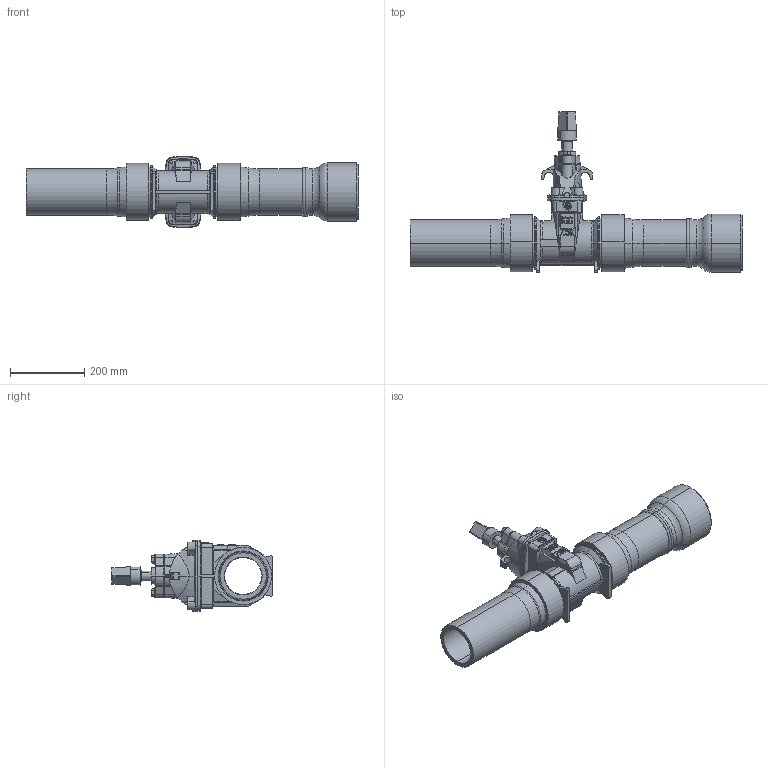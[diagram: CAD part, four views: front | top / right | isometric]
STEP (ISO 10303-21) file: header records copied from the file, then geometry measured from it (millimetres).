
FILE_DESCRIPTION (( 'STEP AP203' ), '1' );
FILE_NAME ('Y05L03101(100).STEP', '2025-02-27T08:22:51', ( '' ), ( '' ), 'SwSTEP 2.0', 'SolidWorks 2019', '' );
FILE_SCHEMA (( 'CONFIG_CONTROL_DESIGN' ));
Length unit declared in the file: millimetre
Products named in the file (1): Y05L03101(100)
Bounding box: 895 x 435.74 x 194 mm (x, y, z)
Volume: 7090889.6 mm3; surface area: 856033.5 mm2
Topology: 1 solids, 1 shells, 660 faces, 1702 edges, 1087 vertices
Faces by surface type: plane 328, cone 126, cylinder 111, torus 55, bspline 36, sphere 4
Entity records: 23840 total; most frequent: CARTESIAN_POINT 8084, ORIENTED_EDGE 3396, DIRECTION 3102, EDGE_CURVE 1698, VERTEX_POINT 1087, AXIS2_PLACEMENT_3D 1083, LINE 936, VECTOR 936
